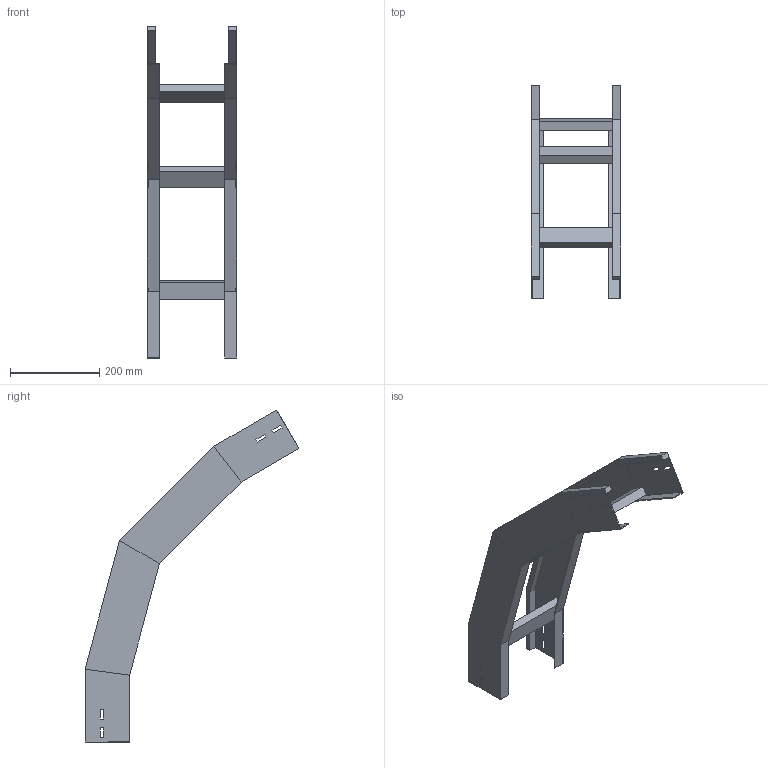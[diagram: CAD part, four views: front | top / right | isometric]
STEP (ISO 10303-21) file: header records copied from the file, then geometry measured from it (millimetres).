
FILE_DESCRIPTION (( 'STEP AP214' ), '1' );
FILE_NAME ('41B5D200.step', '2025-02-21T14:55:57', ( '' ), ( '' ), 'SwSTEP 2.0', 'SolidWorks 2023', '' );
FILE_SCHEMA (( 'AUTOMOTIVE_DESIGN' ));
Length unit declared in the file: millimetre
Products named in the file (3): LONGH.DISCESA_60°_H100_R500; 41B5D200; TRAVERSINO_200
Assembly tree (5 placements, depth 2):
  41B5D200
    LONGH.DISCESA_60°_H100_R500  x2
    TRAVERSINO_200  x3
Bounding box: 200 x 480.08 x 744.92 mm (x, y, z)
Volume: 1256636.7 mm3; surface area: 572309.5 mm2
Topology: 5 solids, 5 shells, 118 faces, 276 edges, 168 vertices
Faces by surface type: plane 118
Entity records: 1672 total; most frequent: CARTESIAN_POINT 276, ORIENTED_EDGE 264, DIRECTION 260, EDGE_CURVE 132, VECTOR 132, LINE 132, VERTEX_POINT 80, EDGE_LOOP 64
